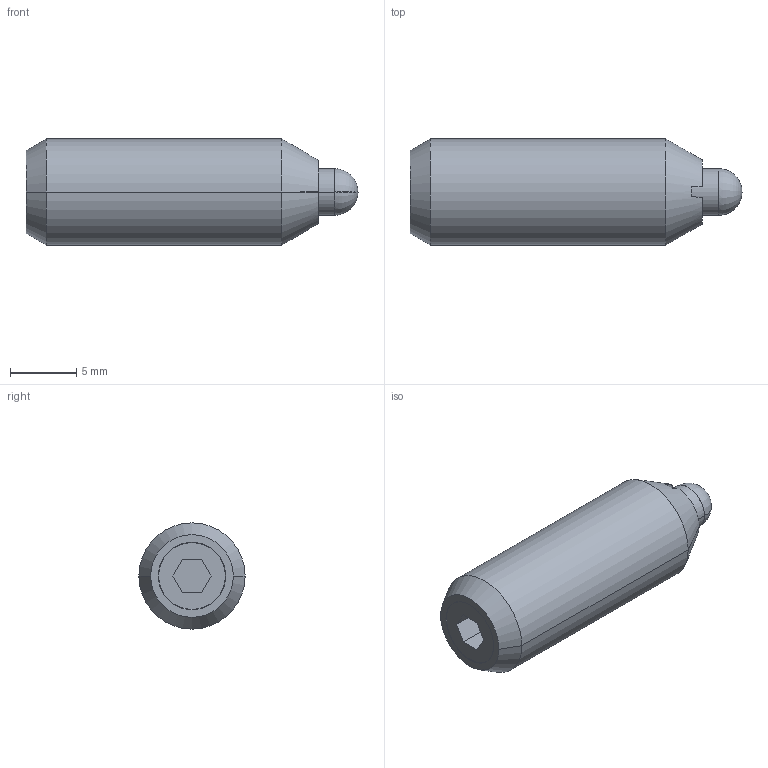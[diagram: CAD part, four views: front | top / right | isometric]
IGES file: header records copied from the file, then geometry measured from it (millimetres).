
Start section:  PTC IGES file: sm8a-3d.igs
Global section: file name: sm8a-3d.igs; native system: Pro/ENGINEER by Parametric Technology Corporation; preprocessor: 2002350; author: chant; organization: Unknown; date: 061031.161517; units: inch
Bounding box: 24.99 x 8 x 8 mm (x, y, z)
Surface area: 723.9 mm2 (no closed solid volume)
Topology: 0 solids, 0 shells, 32 faces, 222 edges, 280 vertices
Faces by surface type: bspline 16, revolution 16
